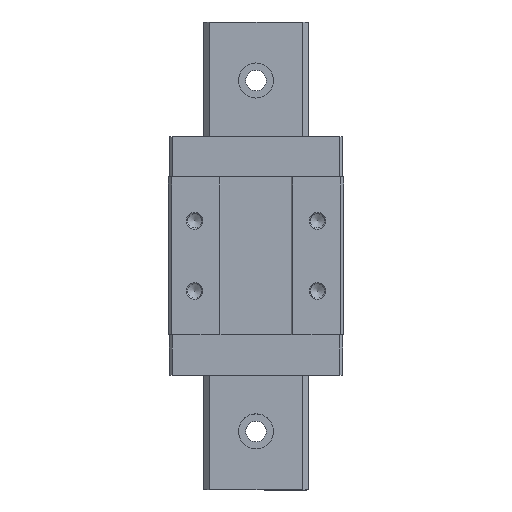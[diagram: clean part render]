
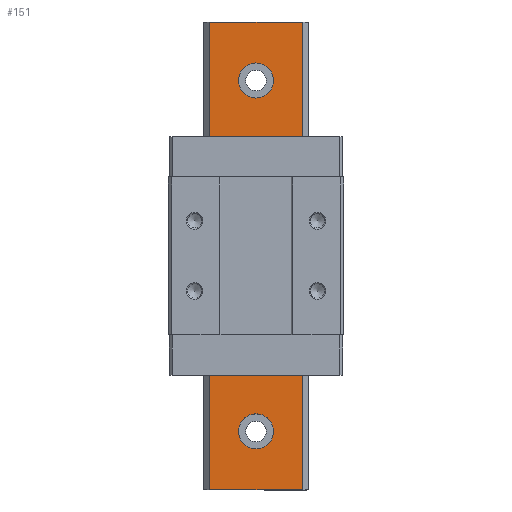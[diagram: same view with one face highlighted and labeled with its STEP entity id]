
A CAD part, top view. The second image highlights one B-rep face of the part: STEP entity #151.
In plain terms, the highlighted planar face has unit normal (0, 0, 1).
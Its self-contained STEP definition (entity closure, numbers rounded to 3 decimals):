
#151 = ADVANCED_FACE( '', ( #305, #306, #307, #308 ), #309, .F. );
#305 = FACE_BOUND( '', #481, .T. );
#306 = FACE_BOUND( '', #482, .T. );
#307 = FACE_BOUND( '', #483, .T. );
#308 = FACE_OUTER_BOUND( '', #484, .T. );
#309 = PLANE( '', #485 );
#481 = EDGE_LOOP( '', ( #909 ) );
#482 = EDGE_LOOP( '', ( #910 ) );
#483 = EDGE_LOOP( '', ( #911 ) );
#484 = EDGE_LOOP( '', ( #912, #913, #914, #915 ) );
#485 = AXIS2_PLACEMENT_3D( '', #916, #917, #918 );
#909 = ORIENTED_EDGE( '', *, *, #1389, .T. );
#910 = ORIENTED_EDGE( '', *, *, #1367, .T. );
#911 = ORIENTED_EDGE( '', *, *, #1442, .T. );
#912 = ORIENTED_EDGE( '', *, *, #1426, .T. );
#913 = ORIENTED_EDGE( '', *, *, #1443, .F. );
#914 = ORIENTED_EDGE( '', *, *, #1342, .F. );
#915 = ORIENTED_EDGE( '', *, *, #1444, .T. );
#916 = CARTESIAN_POINT( '', ( 7.9, -40., 3.75 ) );
#917 = DIRECTION( '', ( 0., 0., -1. ) );
#918 = DIRECTION( '', ( -1., 0., 0. ) );
#1342 = EDGE_CURVE( '', #1758, #1760, #1761, .T. );
#1367 = EDGE_CURVE( '', #1805, #1805, #1806, .T. );
#1389 = EDGE_CURVE( '', #1838, #1838, #1839, .T. );
#1426 = EDGE_CURVE( '', #1896, #1894, #1897, .T. );
#1442 = EDGE_CURVE( '', #1917, #1917, #1918, .T. );
#1443 = EDGE_CURVE( '', #1760, #1894, #1919, .T. );
#1444 = EDGE_CURVE( '', #1758, #1896, #1920, .T. );
#1758 = VERTEX_POINT( '', #2889 );
#1760 = VERTEX_POINT( '', #2892 );
#1761 = LINE( '', #2893, #2894 );
#1805 = VERTEX_POINT( '', #2949 );
#1806 = CIRCLE( '', #2950, 3. );
#1838 = VERTEX_POINT( '', #2991 );
#1839 = CIRCLE( '', #2992, 3. );
#1894 = VERTEX_POINT( '', #3064 );
#1896 = VERTEX_POINT( '', #3067 );
#1897 = LINE( '', #3068, #3069 );
#1917 = VERTEX_POINT( '', #3095 );
#1918 = CIRCLE( '', #3096, 3. );
#1919 = LINE( '', #3097, #3098 );
#1920 = LINE( '', #3099, #3100 );
#2889 = CARTESIAN_POINT( '', ( 7.9, -40., 3.75 ) );
#2892 = CARTESIAN_POINT( '', ( -7.9, -40., 3.75 ) );
#2893 = CARTESIAN_POINT( '', ( 7.9, -40., 3.75 ) );
#2894 = VECTOR( '', #3460, 1000. );
#2949 = CARTESIAN_POINT( '', ( 0., -3., 3.75 ) );
#2950 = AXIS2_PLACEMENT_3D( '', #3505, #3506, #3507 );
#2991 = CARTESIAN_POINT( '', ( 0., 27., 3.75 ) );
#2992 = AXIS2_PLACEMENT_3D( '', #3532, #3533, #3534 );
#3064 = CARTESIAN_POINT( '', ( -7.9, 40., 3.75 ) );
#3067 = CARTESIAN_POINT( '', ( 7.9, 40., 3.75 ) );
#3068 = CARTESIAN_POINT( '', ( 7.9, 40., 3.75 ) );
#3069 = VECTOR( '', #3586, 1000. );
#3095 = CARTESIAN_POINT( '', ( 0., -33., 3.75 ) );
#3096 = AXIS2_PLACEMENT_3D( '', #3605, #3606, #3607 );
#3097 = CARTESIAN_POINT( '', ( -7.9, -40., 3.75 ) );
#3098 = VECTOR( '', #3608, 1000. );
#3099 = CARTESIAN_POINT( '', ( 7.9, -40., 3.75 ) );
#3100 = VECTOR( '', #3609, 1000. );
#3460 = DIRECTION( '', ( -1., 0., 0. ) );
#3505 = CARTESIAN_POINT( '', ( 0., 0., 3.75 ) );
#3506 = DIRECTION( '', ( 0., 0., -1. ) );
#3507 = DIRECTION( '', ( 0., -1., 0. ) );
#3532 = CARTESIAN_POINT( '', ( 0., 30., 3.75 ) );
#3533 = DIRECTION( '', ( 0., 0., -1. ) );
#3534 = DIRECTION( '', ( 0., -1., 0. ) );
#3586 = DIRECTION( '', ( -1., 0., 0. ) );
#3605 = CARTESIAN_POINT( '', ( 0., -30., 3.75 ) );
#3606 = DIRECTION( '', ( 0., 0., -1. ) );
#3607 = DIRECTION( '', ( 0., -1., 0. ) );
#3608 = DIRECTION( '', ( 0., 1., 0. ) );
#3609 = DIRECTION( '', ( 0., 1., 0. ) );
